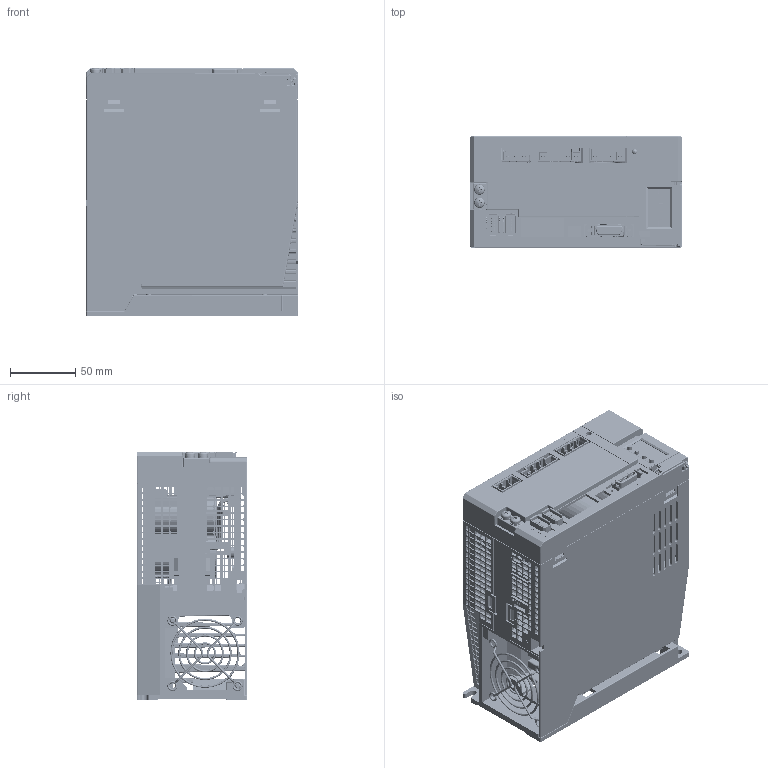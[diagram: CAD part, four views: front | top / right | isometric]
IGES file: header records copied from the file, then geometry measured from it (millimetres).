
Global section: file name: No Iges File Name specified; native system: AutoDesk Inventor R12.0; preprocessor: AutoDesk Inventor Iges Exporter R12.0; author: No Author specified; organization: No Organization specified; date: 20161022.141945; units: millimetre
Bounding box: 162 x 85 x 190.4 mm (x, y, z)
Surface area: 510851.3 mm2
Topology: 36 solids, 44 shells, 13355 faces, 37948 edges, 24847 vertices
Faces by surface type: plane 10538, revolution 1331, cylinder 780, bspline 507, sphere 92, torus 72, cone 35
Full cylindrical faces by diameter (mm): 0.6 x4, 1.5 x16, 1.6 x8, 2 x3, 2.8 x1, 3 x1, 3.4 x4, 3.621 x2, 3.8 x2, 4 x6, 4.33 x1, 4.5 x1, 6 x1, 8 x2, 8.3 x1, 10 x2, 30.662 x1, 31 x3
